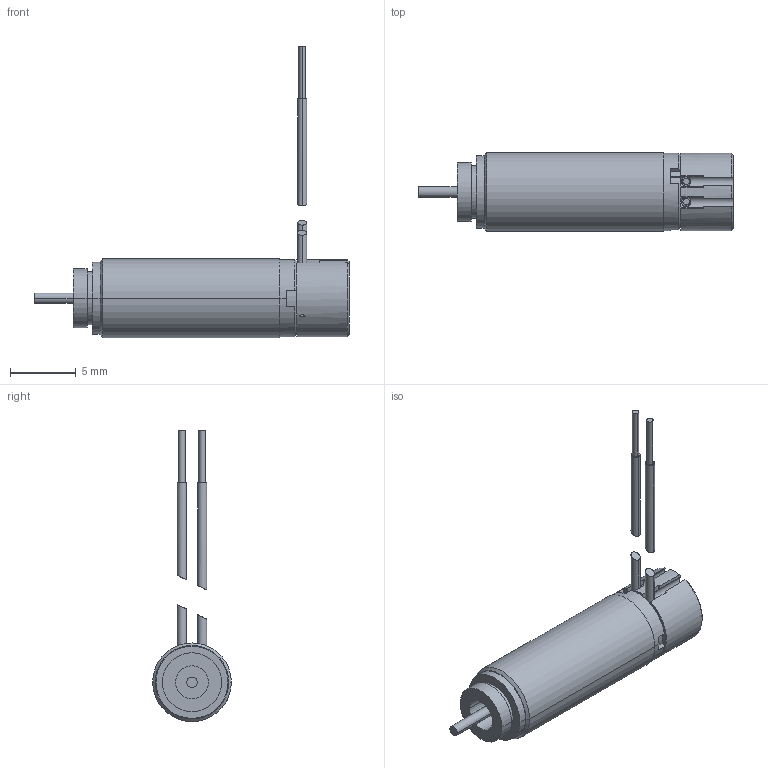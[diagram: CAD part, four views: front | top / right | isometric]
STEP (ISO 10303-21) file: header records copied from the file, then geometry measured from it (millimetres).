
FILE_DESCRIPTION((''),'2;1');
FILE_NAME('386780_RE6_EB_0_3W_SL_2WE_K','2016-10-07T',('mmagvisi'),(''),'CREO PARAMETRIC BY PTC INC, 2016050','CREO PARAMETRIC BY PTC INC, 2016050','');
FILE_SCHEMA(('CONFIG_CONTROL_DESIGN'));
Length unit declared in the file: millimetre
Products named in the file (1): 386780_RE6_EB_0_3W_SL_2WE_K
Bounding box: 24 x 6 x 22.2 mm (x, y, z)
Volume: 560.7 mm3; surface area: 561 mm2
Topology: 4 solids, 5 shells, 100 faces, 230 edges, 151 vertices
Faces by surface type: plane 53, cylinder 40, cone 7
Entity records: 3924 total; most frequent: CARTESIAN_POINT 784, DIRECTION 500, ORIENTED_EDGE 460, PRESENTATION_STYLE_ASSIGNMENT 234, STYLED_ITEM 234, CURVE_STYLE 230, EDGE_CURVE 230, AXIS2_PLACEMENT_3D 195
